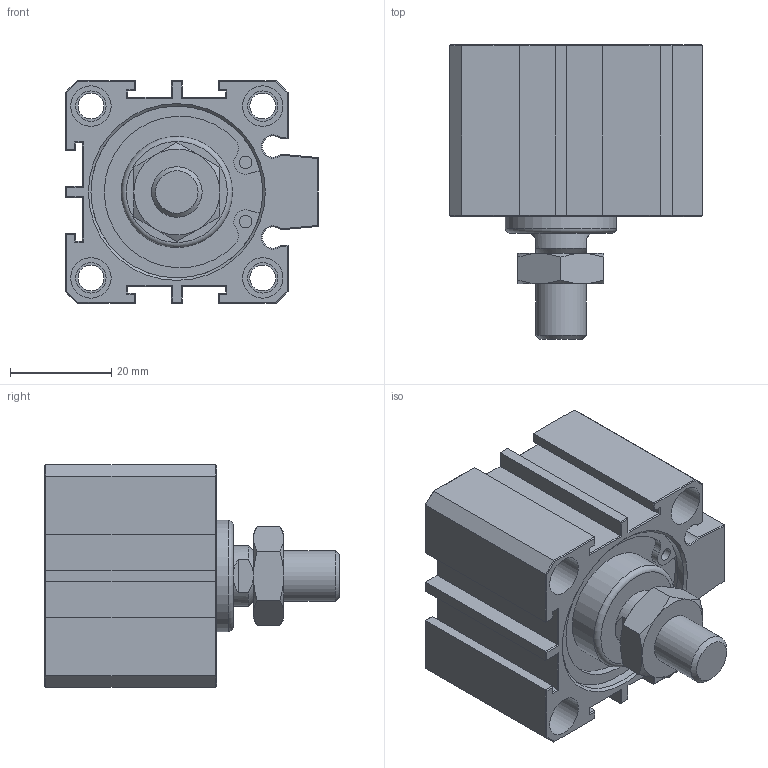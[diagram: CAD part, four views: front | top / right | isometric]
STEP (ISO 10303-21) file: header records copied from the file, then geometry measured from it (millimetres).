
FILE_DESCRIPTION(/* description */ (''),/* implementation_level */ '2;1');
FILE_NAME(/* name */ 'AJC-SD32X10W',/* time_stamp */ '2019-07-05T09:43:28+08:00',/* author */ ('JEFF HUANG'),/* organization */ ('TAIWAN AMAC CLAMP INDUSTRIAL CO., LTD.'),/* preprocessor_version */ 'ST-DEVELOPER v16.7',/* originating_system */ 'DEX',/* authorisation */ $);
FILE_SCHEMA (('AUTOMOTIVE_DESIGN {1 0 10303 214 3 1 1}'));
Length unit declared in the file: millimetre
Products named in the file (1): AJC-SD32X10W
Bounding box: 50 x 58.3 x 44 mm (x, y, z)
Volume: 56707.3 mm3; surface area: 18118.4 mm2
Topology: 1 solids, 2 shells, 273 faces, 596 edges, 354 vertices
Faces by surface type: plane 199, cylinder 47, cone 23, torus 2, sphere 2
Full cylindrical faces by diameter (mm): 2.5 x4, 5.1 x4, 6 x8, 8 x8, 9.147 x2, 10 x1, 22 x1, 23 x1, 34 x2
Entity records: 8987 total; most frequent: CARTESIAN_POINT 1280, DIRECTION 1188, ORIENTED_EDGE 1100, EDGE_CURVE 550, AXIS2_PLACEMENT_3D 400, LINE 388, VECTOR 388, VERTEX_POINT 348
